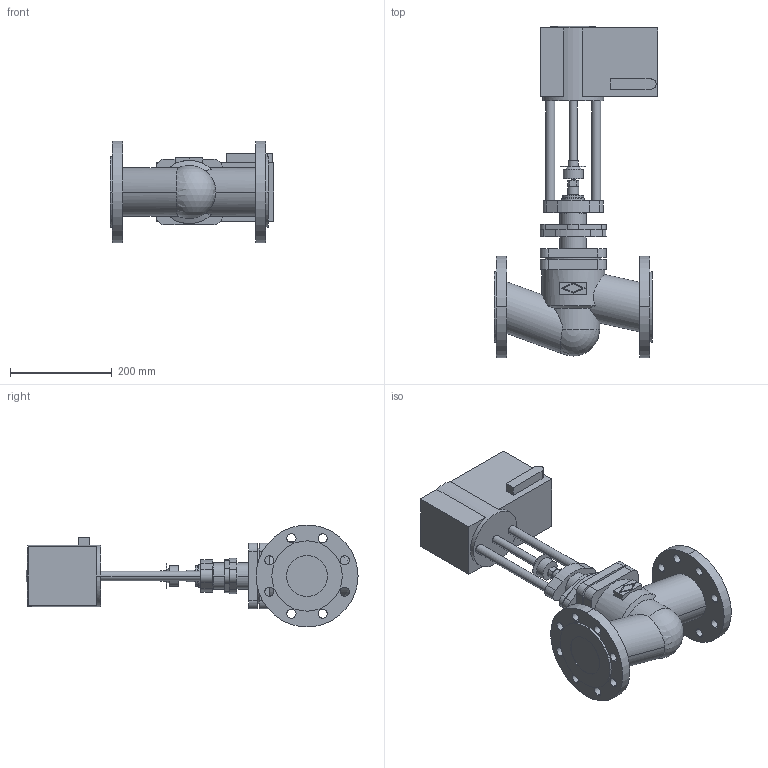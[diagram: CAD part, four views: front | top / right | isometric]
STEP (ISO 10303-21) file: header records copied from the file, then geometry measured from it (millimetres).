
FILE_DESCRIPTION(('Creo Elements/Direct Modeling STEP Export'),'2;1');
FILE_NAME('c000005074.stp','2013-06-04T 9:36:38',(''),(''),'Creo Elements/Direct Modeling STEP processor for AP203 (Solid Model)','Creo Elements/Direct Modeling 17.0D 15-Jul-2011 (C) Parametric Technology GmbH','');
FILE_SCHEMA(('CONFIG_CONTROL_DESIGN'));
Length unit declared in the file: millimetre
Products named in the file (5): AnbauteileVentilM14; DN80; FR1.2
Assembly tree (2 placements, depth 2):
  AnbauteileVentilM14
    AnbauteileVentilM14
  DN80
  FR1.2
    FR1.2
Bounding box: 321 x 651.5 x 200 mm (x, y, z)
Volume: 9041329.5 mm3; surface area: 559043.7 mm2
Topology: 3 solids, 3 shells, 238 faces, 578 edges, 370 vertices
Faces by surface type: cylinder 114, plane 83, cone 22, torus 16, sphere 3
Entity records: 7411 total; most frequent: CARTESIAN_POINT 1523, ORIENTED_EDGE 1148, DIRECTION 1068, EDGE_CURVE 574, AXIS2_PLACEMENT_3D 406, VERTEX_POINT 370, EDGE_LOOP 300, VECTOR 256
